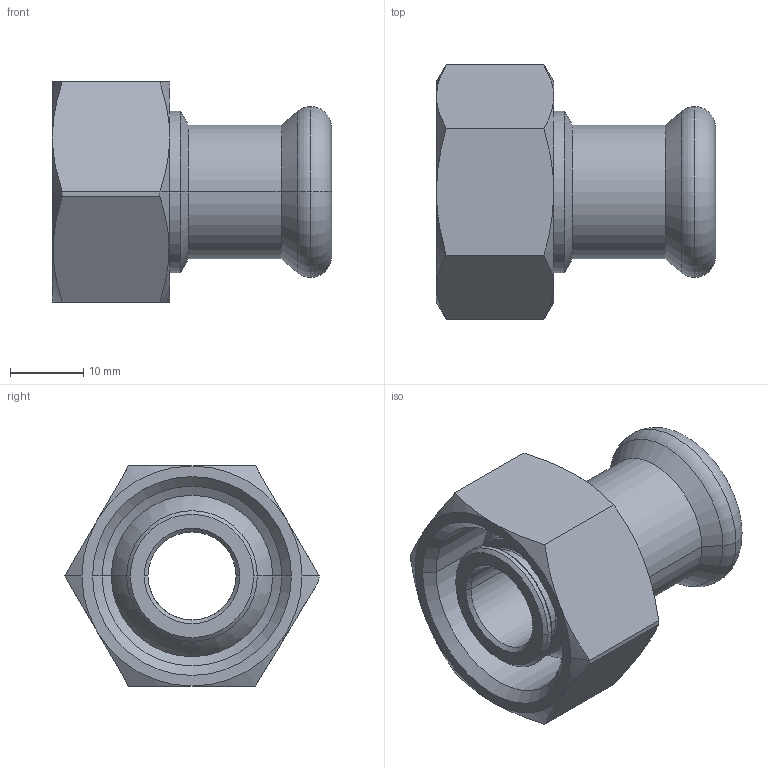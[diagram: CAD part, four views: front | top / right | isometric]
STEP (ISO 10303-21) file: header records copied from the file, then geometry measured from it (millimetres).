
FILE_DESCRIPTION(('CoCreate Modeling STEP Export'),'2;1');
FILE_NAME('C1404 15x3-4 euroconus.stp','2014-11-07T14:12:07',(''),(''),'CoCreate Modeling STEP processor for AP214 (Solid Model)','CoCreate Modeling 17.00A 17-Jun-2010 (C) Parametric Technology GmbH','');
FILE_SCHEMA(('AUTOMOTIVE_DESIGN { 1 0 10303 214 1 1 1 1 }'));
Length unit declared in the file: millimetre
Products named in the file (3): C1404_15x¾_fitting; C1404_15x¾_nut; C1404_15x¾_euroconus
Assembly tree (2 placements, depth 2):
  C1404_15x¾_euroconus
    C1404_15x¾_nut
    C1404_15x¾_fitting
Bounding box: 38.07 x 34.64 x 30 mm (x, y, z)
Volume: 10714 mm3; surface area: 8050.5 mm2
Topology: 2 solids, 2 shells, 85 faces, 178 edges, 101 vertices
Faces by surface type: cone 30, cylinder 25, torus 16, plane 14
Entity records: 2765 total; most frequent: CARTESIAN_POINT 1182, ORIENTED_EDGE 356, DIRECTION 255, EDGE_CURVE 178, AXIS2_PLACEMENT_3D 102, VERTEX_POINT 101, EDGE_LOOP 93, FACE_OUTER_BOUND 85
